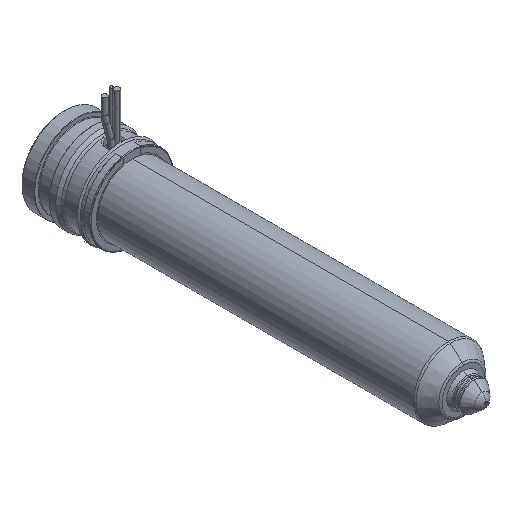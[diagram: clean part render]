
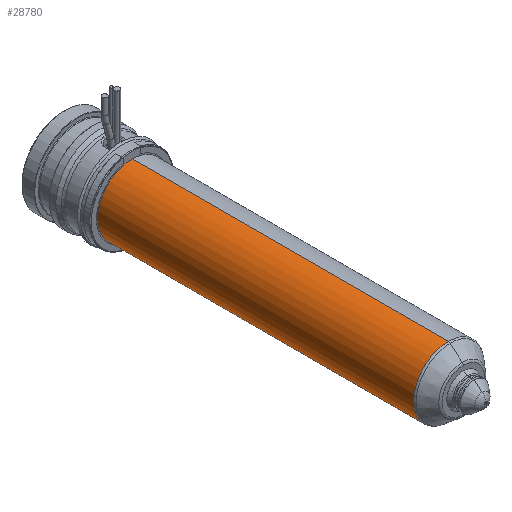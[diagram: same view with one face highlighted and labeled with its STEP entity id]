
A CAD part, isometric view. The second image highlights one B-rep face of the part: STEP entity #28780.
In plain terms, the highlighted cylindrical face has radius 12 mm (diameter 24 mm), a partial arc.
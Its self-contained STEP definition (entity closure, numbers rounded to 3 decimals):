
#28171=CARTESIAN_POINT('',(0.,-133.736,0.));
#28172=DIRECTION('',(0.,-1.,0.));
#28173=DIRECTION('',(0.,0.,1.));
#28174=AXIS2_PLACEMENT_3D('',#28171,#28172,#28173);
#28179=CARTESIAN_POINT('',(0.,-24.,0.));
#28180=DIRECTION('',(0.,1.,0.));
#28181=DIRECTION('',(0.,0.,-1.));
#28182=AXIS2_PLACEMENT_3D('',#28179,#28180,#28181);
#28187=DIRECTION('',(0.,1.,0.));
#28188=VECTOR('',#28187,109.736);
#28189=CARTESIAN_POINT('',(0.,-133.736,12.));
#28190=LINE('',#28189,#28188);
#28202=DIRECTION('',(0.,1.,0.));
#28203=VECTOR('',#28202,109.736);
#28204=CARTESIAN_POINT('',(0.,-133.736,-12.));
#28205=LINE('',#28204,#28203);
#28385=CARTESIAN_POINT('',(0.,-133.736,12.));
#28386=CARTESIAN_POINT('',(0.,-24.,12.));
#28387=VERTEX_POINT('',#28385);
#28388=VERTEX_POINT('',#28386);
#28389=CARTESIAN_POINT('',(0.,-133.736,-12.));
#28390=CARTESIAN_POINT('',(0.,-24.,-12.));
#28391=VERTEX_POINT('',#28389);
#28392=VERTEX_POINT('',#28390);
#28766=CARTESIAN_POINT('',(0.,-13.625,0.));
#28767=DIRECTION('',(0.,-1.,0.));
#28768=DIRECTION('',(0.,0.,1.));
#28769=AXIS2_PLACEMENT_3D('',#28766,#28767,#28768);
#28770=CYLINDRICAL_SURFACE('',#28769,12.);
#28772=ORIENTED_EDGE('',*,*,#28771,.F.);
#28773=ORIENTED_EDGE('',*,*,#28761,.T.);
#28775=ORIENTED_EDGE('',*,*,#28774,.T.);
#28777=ORIENTED_EDGE('',*,*,#28776,.T.);
#28778=EDGE_LOOP('',(#28772,#28773,#28775,#28777));
#28779=FACE_OUTER_BOUND('',#28778,.F.);
#28780=ADVANCED_FACE('',(#28779),#28770,.T.);
#28175=CIRCLE('',#28174,12.);
#28183=CIRCLE('',#28182,12.);
#28761=EDGE_CURVE('',#28387,#28391,#28175,.T.);
#28771=EDGE_CURVE('',#28387,#28388,#28190,.T.);
#28774=EDGE_CURVE('',#28391,#28392,#28205,.T.);
#28776=EDGE_CURVE('',#28392,#28388,#28183,.T.);
